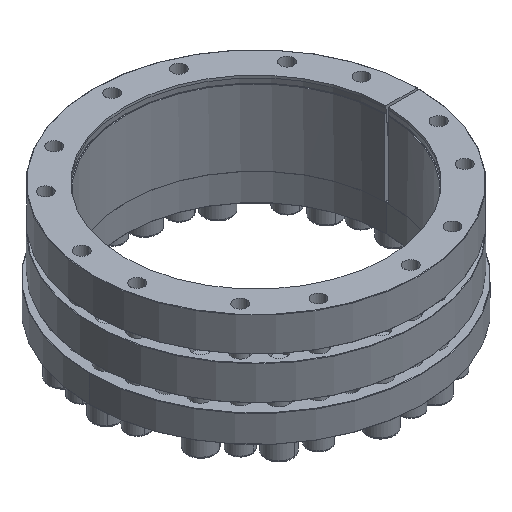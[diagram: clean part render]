
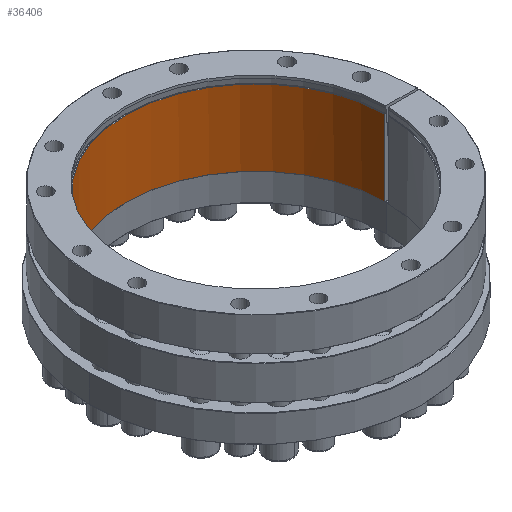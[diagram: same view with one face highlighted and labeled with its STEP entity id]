
A CAD part, isometric view. The second image highlights one B-rep face of the part: STEP entity #36406.
In plain terms, the highlighted cylindrical face has radius 170 mm (diameter 340 mm), a partial arc.
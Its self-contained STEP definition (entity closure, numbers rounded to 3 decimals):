
#106 = CARTESIAN_POINT ( 'NONE',  ( -169.999, 0.576, -108.005 ) ) ;
#1059 = VECTOR ( 'NONE', #23404, 1000. ) ;
#1519 = LINE ( 'NONE', #25431, #9147 ) ;
#1700 = LINE ( 'NONE', #36724, #17973 ) ;
#2628 = CARTESIAN_POINT ( 'NONE',  ( 169.994, 1.424, -9.005 ) ) ;
#3190 = CARTESIAN_POINT ( 'NONE',  ( 0., 0., -108.005 ) ) ;
#4569 = CYLINDRICAL_SURFACE ( 'NONE', #5585, 170. ) ;
#4781 = ORIENTED_EDGE ( 'NONE', *, *, #15723, .T. ) ;
#5585 = AXIS2_PLACEMENT_3D ( 'NONE', #26595, #36224, #10502 ) ;
#5684 = CARTESIAN_POINT ( 'NONE',  ( -169.999, 0.576, -107.505 ) ) ;
#6461 = DIRECTION ( 'NONE',  ( -1., 0.003, 0. ) ) ;
#7662 = EDGE_CURVE ( 'NONE', #25407, #23112, #29232, .T. ) ;
#7779 = DIRECTION ( 'NONE',  ( 0., 0., 1. ) ) ;
#8517 = CIRCLE ( 'NONE', #41452, 170. ) ;
#8664 = EDGE_CURVE ( 'NONE', #23112, #28917, #18336, .T. ) ;
#9147 = VECTOR ( 'NONE', #31820, 1000. ) ;
#9159 = DIRECTION ( 'NONE',  ( 0., 0., 1. ) ) ;
#9971 = EDGE_CURVE ( 'NONE', #32753, #15997, #25638, .T. ) ;
#10287 = ORIENTED_EDGE ( 'NONE', *, *, #8664, .F. ) ;
#10502 = DIRECTION ( 'NONE',  ( -1., 0.003, 0. ) ) ;
#11265 = CARTESIAN_POINT ( 'NONE',  ( 0., 0., -107.505 ) ) ;
#12266 = CARTESIAN_POINT ( 'NONE',  ( 169.994, 1.424, -9.005 ) ) ;
#12963 = ORIENTED_EDGE ( 'NONE', *, *, #14836, .T. ) ;
#13993 = DIRECTION ( 'NONE',  ( 0., 0., -1. ) ) ;
#14306 = CIRCLE ( 'NONE', #22637, 170. ) ;
#14539 = DIRECTION ( 'NONE',  ( 1., -0.003, 0. ) ) ;
#14629 = VERTEX_POINT ( 'NONE', #27431 ) ;
#14836 = EDGE_CURVE ( 'NONE', #39999, #32753, #37907, .T. ) ;
#15723 = EDGE_CURVE ( 'NONE', #14629, #28917, #14306, .T. ) ;
#15997 = VERTEX_POINT ( 'NONE', #38070 ) ;
#16906 = EDGE_CURVE ( 'NONE', #28180, #39999, #8517, .T. ) ;
#17271 = FACE_OUTER_BOUND ( 'NONE', #17920, .T. ) ;
#17920 = EDGE_LOOP ( 'NONE', ( #31295, #41409, #20075, #12963, #24920, #38507, #4781, #10287 ) ) ;
#17973 = VECTOR ( 'NONE', #13993, 1000. ) ;
#18165 = DIRECTION ( 'NONE',  ( 0., 0., 1. ) ) ;
#18336 = LINE ( 'NONE', #26279, #1059 ) ;
#19825 = EDGE_CURVE ( 'NONE', #15997, #14629, #1700, .T. ) ;
#20075 = ORIENTED_EDGE ( 'NONE', *, *, #16906, .T. ) ;
#21446 = CARTESIAN_POINT ( 'NONE',  ( 169.999, -0.576, -108.005 ) ) ;
#22637 = AXIS2_PLACEMENT_3D ( 'NONE', #27331, #7779, #30555 ) ;
#23112 = VERTEX_POINT ( 'NONE', #106 ) ;
#23404 = DIRECTION ( 'NONE',  ( 0., 0., 1. ) ) ;
#24920 = ORIENTED_EDGE ( 'NONE', *, *, #9971, .T. ) ;
#25407 = VERTEX_POINT ( 'NONE', #21446 ) ;
#25431 = CARTESIAN_POINT ( 'NONE',  ( 169.999, -0.576, -9.005 ) ) ;
#25638 = CIRCLE ( 'NONE', #32686, 170. ) ;
#25966 = DIRECTION ( 'NONE',  ( 0., 0., 1. ) ) ;
#26279 = CARTESIAN_POINT ( 'NONE',  ( -169.999, 0.576, -9.005 ) ) ;
#26288 = CARTESIAN_POINT ( 'NONE',  ( 169.999, -0.576, -107.505 ) ) ;
#26595 = CARTESIAN_POINT ( 'NONE',  ( 0., 0., -9.005 ) ) ;
#27331 = CARTESIAN_POINT ( 'NONE',  ( 0., 0., -107.505 ) ) ;
#27431 = CARTESIAN_POINT ( 'NONE',  ( -169.98, 2.576, -107.505 ) ) ;
#28180 = VERTEX_POINT ( 'NONE', #26288 ) ;
#28917 = VERTEX_POINT ( 'NONE', #5684 ) ;
#29232 = CIRCLE ( 'NONE', #38523, 170. ) ;
#29318 = VECTOR ( 'NONE', #9159, 1000. ) ;
#30555 = DIRECTION ( 'NONE',  ( 1., -0.003, 0. ) ) ;
#31295 = ORIENTED_EDGE ( 'NONE', *, *, #7662, .F. ) ;
#31820 = DIRECTION ( 'NONE',  ( 0., 0., 1. ) ) ;
#32686 = AXIS2_PLACEMENT_3D ( 'NONE', #37642, #18165, #40866 ) ;
#32753 = VERTEX_POINT ( 'NONE', #12266 ) ;
#34027 = DIRECTION ( 'NONE',  ( 0., 0., 1. ) ) ;
#36224 = DIRECTION ( 'NONE',  ( 0., 0., 1. ) ) ;
#36406 = ADVANCED_FACE ( 'NONE', ( #17271 ), #4569, .F. ) ;
#36724 = CARTESIAN_POINT ( 'NONE',  ( -169.98, 2.576, -9.005 ) ) ;
#37642 = CARTESIAN_POINT ( 'NONE',  ( 0., 0., -9.005 ) ) ;
#37907 = LINE ( 'NONE', #2628, #29318 ) ;
#38070 = CARTESIAN_POINT ( 'NONE',  ( -169.98, 2.576, -9.005 ) ) ;
#38507 = ORIENTED_EDGE ( 'NONE', *, *, #19825, .T. ) ;
#38523 = AXIS2_PLACEMENT_3D ( 'NONE', #3190, #25966, #6461 ) ;
#39999 = VERTEX_POINT ( 'NONE', #41197 ) ;
#40638 = EDGE_CURVE ( 'NONE', #25407, #28180, #1519, .T. ) ;
#40866 = DIRECTION ( 'NONE',  ( -1., 0.003, 0. ) ) ;
#41197 = CARTESIAN_POINT ( 'NONE',  ( 169.994, 1.424, -107.505 ) ) ;
#41409 = ORIENTED_EDGE ( 'NONE', *, *, #40638, .T. ) ;
#41452 = AXIS2_PLACEMENT_3D ( 'NONE', #11265, #34027, #14539 ) ;
